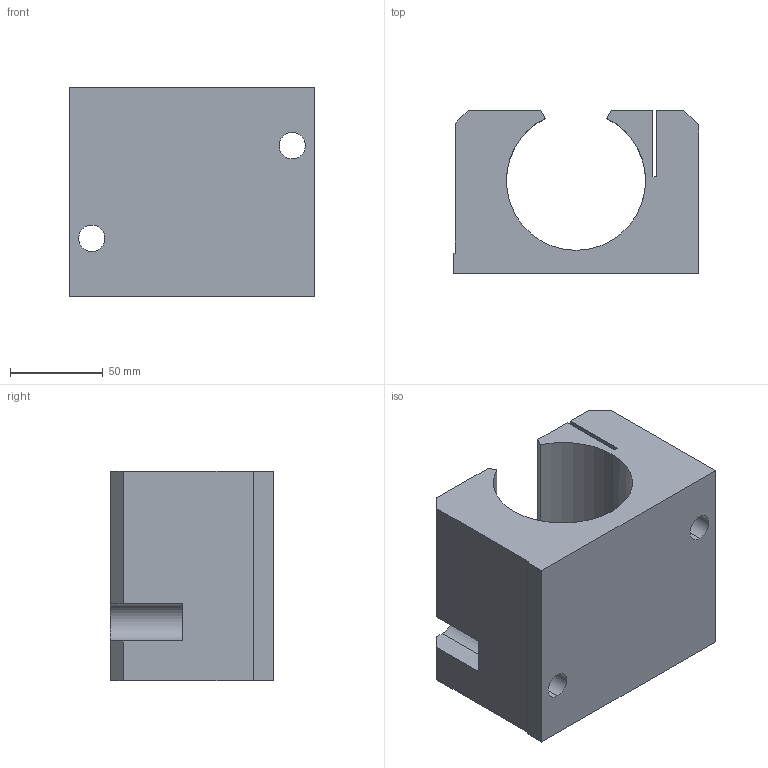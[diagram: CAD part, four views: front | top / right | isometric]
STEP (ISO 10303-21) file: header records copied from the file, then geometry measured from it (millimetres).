
FILE_DESCRIPTION (( 'STEP AP214' ), '1' );
FILE_NAME ('KGOE38-50.step', '2020-03-04T13:23:05', ( '' ), ( '' ), 'SwSTEP 2.0', 'SolidWorks 2019', '' );
FILE_SCHEMA (( 'AUTOMOTIVE_DESIGN' ));
Length unit declared in the file: millimetre
Products named in the file (1): KGOE38-50
Bounding box: 132 x 88 x 113 mm (x, y, z)
Volume: 734500.2 mm3; surface area: 98388.1 mm2
Topology: 1 solids, 1 shells, 47 faces, 131 edges, 86 vertices
Faces by surface type: plane 26, cylinder 19, cone 2
Entity records: 1780 total; most frequent: CARTESIAN_POINT 384, ORIENTED_EDGE 262, DIRECTION 257, EDGE_CURVE 131, LINE 91, VECTOR 91, VERTEX_POINT 86, AXIS2_PLACEMENT_3D 83
